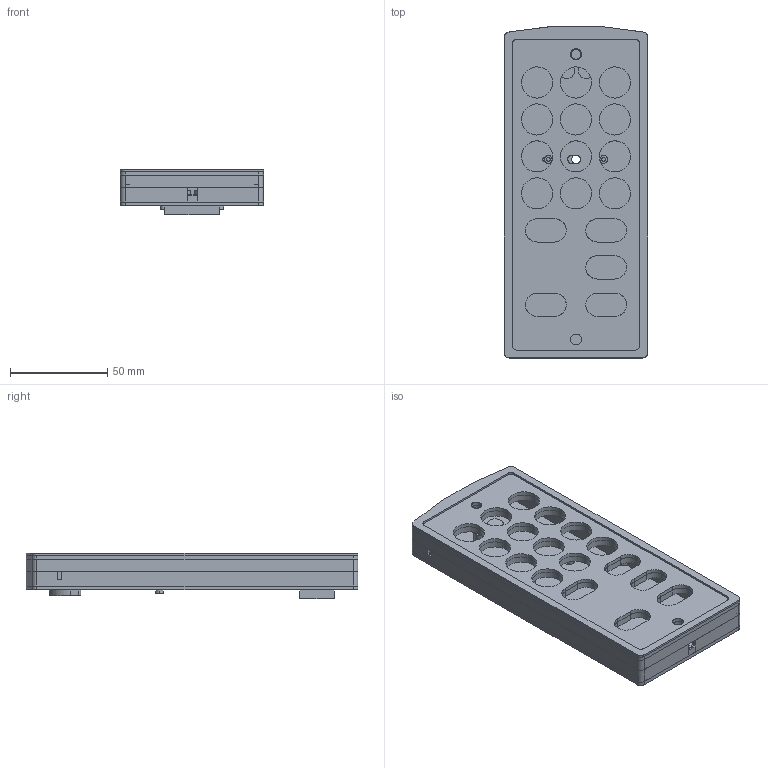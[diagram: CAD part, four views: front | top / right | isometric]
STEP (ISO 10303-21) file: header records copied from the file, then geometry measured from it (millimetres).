
FILE_DESCRIPTION(/* description */ (''),/* implementation_level */ '2;1');
FILE_NAME(/* name */ '2019-C~1',/* time_stamp */ '2019-12-04T12:31:37+02:00',/* author */ (''),/* organization */ (''),/* preprocessor_version */ 'ST-DEVELOPER v16.5',/* originating_system */ '',/* authorisation */ '');
FILE_SCHEMA (('AUTOMOTIVE_DESIGN'));
Length unit declared in the file: millimetre
Products named in the file (1): Document
Bounding box: 73.5 x 170.55 x 23.3 mm (x, y, z)
Volume: 61032.3 mm3; surface area: 111739.5 mm2
Topology: 68 solids, 68 shells, 687 faces, 1752 edges, 1254 vertices
Faces by surface type: bspline 469, plane 218
Entity records: 21438 total; most frequent: CARTESIAN_POINT 12258, ORIENTED_EDGE 2988, EDGE_CURVE 1494, VERTEX_POINT 987, EDGE_LOOP 771, ADVANCED_FACE 647, FACE_OUTER_BOUND 647, B_SPLINE_CURVE_WITH_KNOTS 268
